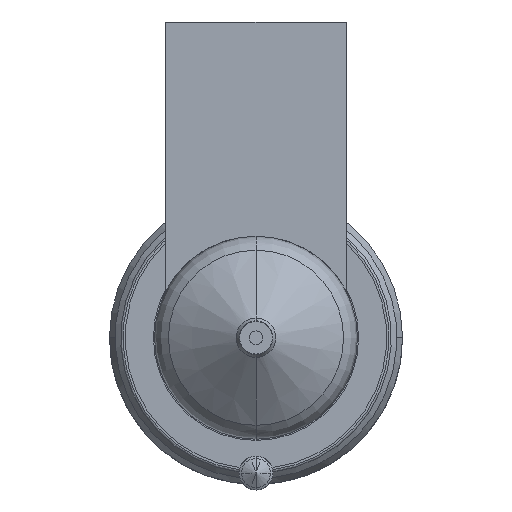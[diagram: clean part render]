
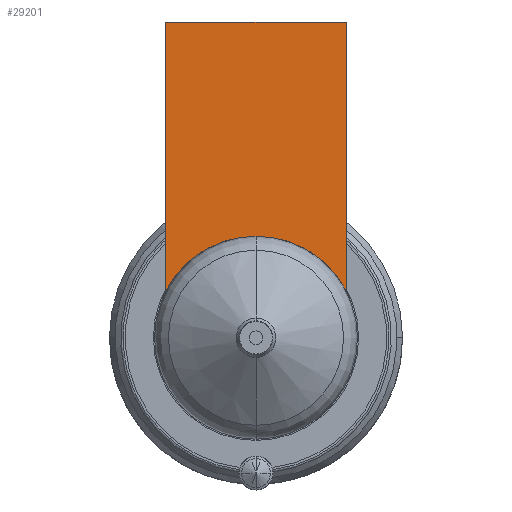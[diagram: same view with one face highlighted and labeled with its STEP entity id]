
A CAD part, front view. The second image highlights one B-rep face of the part: STEP entity #29201.
In plain terms, the highlighted planar face has unit normal (0, -1, 0).
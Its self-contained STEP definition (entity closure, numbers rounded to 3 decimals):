
#28548=DIRECTION('',(1.,0.,0.));
#28549=VECTOR('',#28548,16.);
#28550=CARTESIAN_POINT('',(-8.,-54.,28.));
#28551=LINE('',#28550,#28549);
#28556=CARTESIAN_POINT('',(0.,-54.,0.));
#28557=DIRECTION('',(0.,-1.,0.));
#28558=DIRECTION('',(0.889,0.,0.458));
#28559=AXIS2_PLACEMENT_3D('',#28556,#28557,#28558);
#28564=CARTESIAN_POINT('',(0.,-54.,0.));
#28565=DIRECTION('',(0.,-1.,0.));
#28566=DIRECTION('',(0.,0.,1.));
#28567=AXIS2_PLACEMENT_3D('',#28564,#28565,#28566);
#28593=DIRECTION('',(0.,0.,-1.));
#28594=VECTOR('',#28593,23.877);
#28595=CARTESIAN_POINT('',(-8.,-54.,28.));
#28596=LINE('',#28595,#28594);
#29073=DIRECTION('',(0.,0.,-1.));
#29074=VECTOR('',#29073,23.877);
#29075=CARTESIAN_POINT('',(8.,-54.,28.));
#29076=LINE('',#29075,#29074);
#29126=CARTESIAN_POINT('',(-8.,-54.,28.));
#29127=VERTEX_POINT('',#29126);
#29132=CARTESIAN_POINT('',(8.,-54.,28.));
#29133=VERTEX_POINT('',#29132);
#29136=CARTESIAN_POINT('',(-8.,-54.,4.123));
#29137=VERTEX_POINT('',#29136);
#29140=CARTESIAN_POINT('',(8.,-54.,4.123));
#29141=VERTEX_POINT('',#29140);
#29182=CARTESIAN_POINT('',(0.,-54.,9.));
#29183=VERTEX_POINT('',#29182);
#29184=CARTESIAN_POINT('',(0.,-54.,9.));
#29185=DIRECTION('',(0.,1.,0.));
#29186=DIRECTION('',(0.,0.,-1.));
#29187=AXIS2_PLACEMENT_3D('',#29184,#29185,#29186);
#29188=PLANE('',#29187);
#29190=ORIENTED_EDGE('',*,*,#29189,.F.);
#29192=ORIENTED_EDGE('',*,*,#29191,.T.);
#29194=ORIENTED_EDGE('',*,*,#29193,.T.);
#29196=ORIENTED_EDGE('',*,*,#29195,.T.);
#29198=ORIENTED_EDGE('',*,*,#29197,.T.);
#29199=EDGE_LOOP('',(#29190,#29192,#29194,#29196,#29198));
#29200=FACE_OUTER_BOUND('',#29199,.F.);
#29201=ADVANCED_FACE('',(#29200),#29188,.F.);
#28560=CIRCLE('',#28559,9.);
#28568=CIRCLE('',#28567,9.);
#29189=EDGE_CURVE('',#29127,#29137,#28596,.T.);
#29191=EDGE_CURVE('',#29127,#29133,#28551,.T.);
#29193=EDGE_CURVE('',#29133,#29141,#29076,.T.);
#29195=EDGE_CURVE('',#29141,#29183,#28560,.T.);
#29197=EDGE_CURVE('',#29183,#29137,#28568,.T.);
